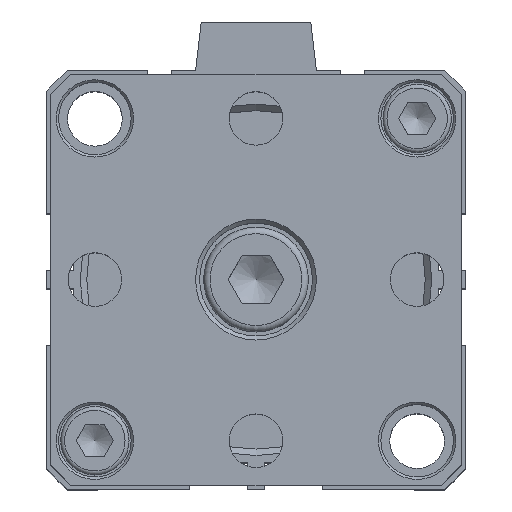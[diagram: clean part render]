
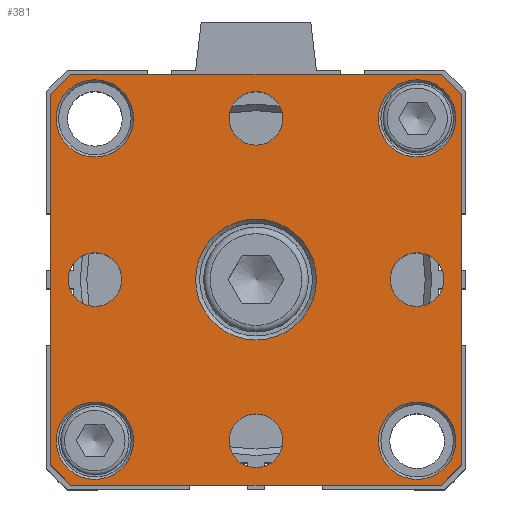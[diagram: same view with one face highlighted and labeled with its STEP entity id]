
A CAD part, top view. The second image highlights one B-rep face of the part: STEP entity #381.
In plain terms, the highlighted planar face has unit normal (0, 0, 1).
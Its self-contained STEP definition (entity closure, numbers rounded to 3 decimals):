
#207=CARTESIAN_POINT('',(25.398,21.555,66.1));
#208=VERTEX_POINT('',#207);
#209=CARTESIAN_POINT('',(20.598,21.555,66.1));
#210=DIRECTION('',(0.0,0.0,1.0));
#211=DIRECTION('',(-1.0,0.0,0.0));
#212=AXIS2_PLACEMENT_3D('',#209,#210,#211);
#213=CIRCLE('',#212,4.8);
#214=EDGE_CURVE('',#208,#208,#213,.T.);
#219=CARTESIAN_POINT('',(0.598,1.555,66.1));
#220=DIRECTION('',(0.0,0.0,1.0));
#221=DIRECTION('',(1.0,0.0,0.0));
#222=AXIS2_PLACEMENT_3D('',#219,#220,#221);
#223=PLANE('',#222);
#224=CARTESIAN_POINT('',(-24.902,24.555,66.1));
#225=VERTEX_POINT('',#224);
#226=CARTESIAN_POINT('',(-22.402,27.055,66.1));
#227=VERTEX_POINT('',#226);
#228=CARTESIAN_POINT('',(-24.902,24.555,66.1));
#229=DIRECTION('',(0.707,0.707,0.0));
#230=VECTOR('',#229,3.536);
#231=LINE('',#228,#230);
#232=EDGE_CURVE('',#225,#227,#231,.T.);
#233=ORIENTED_EDGE('',*,*,#232,.F.);
#234=CARTESIAN_POINT('',(-24.902,-21.445,66.1));
#235=VERTEX_POINT('',#234);
#236=CARTESIAN_POINT('',(-24.902,-21.445,66.1));
#237=DIRECTION('',(0.0,1.0,0.0));
#238=VECTOR('',#237,46.);
#239=LINE('',#236,#238);
#240=EDGE_CURVE('',#235,#225,#239,.T.);
#241=ORIENTED_EDGE('',*,*,#240,.F.);
#242=CARTESIAN_POINT('',(-22.402,-23.945,66.1));
#243=VERTEX_POINT('',#242);
#244=CARTESIAN_POINT('',(-22.402,-23.945,66.1));
#245=DIRECTION('',(-0.707,0.707,0.0));
#246=VECTOR('',#245,3.536);
#247=LINE('',#244,#246);
#248=EDGE_CURVE('',#243,#235,#247,.T.);
#249=ORIENTED_EDGE('',*,*,#248,.F.);
#250=CARTESIAN_POINT('',(23.598,-23.945,66.1));
#251=VERTEX_POINT('',#250);
#252=CARTESIAN_POINT('',(23.598,-23.945,66.1));
#253=DIRECTION('',(-1.0,0.0,0.0));
#254=VECTOR('',#253,46.);
#255=LINE('',#252,#254);
#256=EDGE_CURVE('',#251,#243,#255,.T.);
#257=ORIENTED_EDGE('',*,*,#256,.F.);
#258=CARTESIAN_POINT('',(26.098,-21.445,66.1));
#259=VERTEX_POINT('',#258);
#260=CARTESIAN_POINT('',(26.098,-21.445,66.1));
#261=DIRECTION('',(-0.707,-0.707,0.0));
#262=VECTOR('',#261,3.536);
#263=LINE('',#260,#262);
#264=EDGE_CURVE('',#259,#251,#263,.T.);
#265=ORIENTED_EDGE('',*,*,#264,.F.);
#266=CARTESIAN_POINT('',(26.098,24.555,66.1));
#267=VERTEX_POINT('',#266);
#268=CARTESIAN_POINT('',(26.098,24.555,66.1));
#269=DIRECTION('',(0.0,-1.0,0.0));
#270=VECTOR('',#269,46.);
#271=LINE('',#268,#270);
#272=EDGE_CURVE('',#267,#259,#271,.T.);
#273=ORIENTED_EDGE('',*,*,#272,.F.);
#274=CARTESIAN_POINT('',(23.598,27.055,66.1));
#275=VERTEX_POINT('',#274);
#276=CARTESIAN_POINT('',(23.598,27.055,66.1));
#277=DIRECTION('',(0.707,-0.707,0.0));
#278=VECTOR('',#277,3.536);
#279=LINE('',#276,#278);
#280=EDGE_CURVE('',#275,#267,#279,.T.);
#281=ORIENTED_EDGE('',*,*,#280,.F.);
#282=CARTESIAN_POINT('',(-22.402,27.055,66.1));
#283=DIRECTION('',(1.0,0.0,0.0));
#284=VECTOR('',#283,46.);
#285=LINE('',#282,#284);
#286=EDGE_CURVE('',#227,#275,#285,.T.);
#287=ORIENTED_EDGE('',*,*,#286,.F.);
#288=EDGE_LOOP('',(#233,#241,#249,#257,#265,#273,#281,#287));
#289=FACE_OUTER_BOUND('',#288,.T.);
#290=CARTESIAN_POINT('',(25.398,-18.445,66.1));
#291=VERTEX_POINT('',#290);
#292=CARTESIAN_POINT('',(20.598,-18.445,66.1));
#293=DIRECTION('',(0.0,0.0,1.0));
#294=DIRECTION('',(-1.0,0.0,0.0));
#295=AXIS2_PLACEMENT_3D('',#292,#293,#294);
#296=CIRCLE('',#295,4.8);
#297=EDGE_CURVE('',#291,#291,#296,.T.);
#298=ORIENTED_EDGE('',*,*,#297,.F.);
#299=EDGE_LOOP('',(#298));
#300=FACE_BOUND('',#299,.T.);
#301=CARTESIAN_POINT('',(-14.602,21.555,66.1));
#302=VERTEX_POINT('',#301);
#303=CARTESIAN_POINT('',(-19.402,21.555,66.1));
#304=DIRECTION('',(0.0,0.0,1.0));
#305=DIRECTION('',(-1.0,0.0,0.0));
#306=AXIS2_PLACEMENT_3D('',#303,#304,#305);
#307=CIRCLE('',#306,4.8);
#308=EDGE_CURVE('',#302,#302,#307,.T.);
#309=ORIENTED_EDGE('',*,*,#308,.F.);
#310=EDGE_LOOP('',(#309));
#311=FACE_BOUND('',#310,.T.);
#312=CARTESIAN_POINT('',(3.922,21.555,66.1));
#313=VERTEX_POINT('',#312);
#314=CARTESIAN_POINT('',(0.598,21.555,66.1));
#315=DIRECTION('',(0.0,0.0,-1.0));
#316=DIRECTION('',(1.0,0.0,0.0));
#317=AXIS2_PLACEMENT_3D('',#314,#315,#316);
#318=CIRCLE('',#317,3.324);
#319=EDGE_CURVE('',#313,#313,#318,.T.);
#320=ORIENTED_EDGE('',*,*,#319,.T.);
#321=EDGE_LOOP('',(#320));
#322=FACE_BOUND('',#321,.T.);
#323=CARTESIAN_POINT('',(-16.078,1.555,66.1));
#324=VERTEX_POINT('',#323);
#325=CARTESIAN_POINT('',(-19.402,1.555,66.1));
#326=DIRECTION('',(0.0,0.0,-1.0));
#327=DIRECTION('',(1.0,0.0,0.0));
#328=AXIS2_PLACEMENT_3D('',#325,#326,#327);
#329=CIRCLE('',#328,3.324);
#330=EDGE_CURVE('',#324,#324,#329,.T.);
#331=ORIENTED_EDGE('',*,*,#330,.T.);
#332=EDGE_LOOP('',(#331));
#333=FACE_BOUND('',#332,.T.);
#334=CARTESIAN_POINT('',(3.922,-18.445,66.1));
#335=VERTEX_POINT('',#334);
#336=CARTESIAN_POINT('',(0.598,-18.445,66.1));
#337=DIRECTION('',(0.0,0.0,-1.0));
#338=DIRECTION('',(1.0,0.0,0.0));
#339=AXIS2_PLACEMENT_3D('',#336,#337,#338);
#340=CIRCLE('',#339,3.324);
#341=EDGE_CURVE('',#335,#335,#340,.T.);
#342=ORIENTED_EDGE('',*,*,#341,.T.);
#343=EDGE_LOOP('',(#342));
#344=FACE_BOUND('',#343,.T.);
#345=CARTESIAN_POINT('',(23.922,1.555,66.1));
#346=VERTEX_POINT('',#345);
#347=CARTESIAN_POINT('',(20.598,1.555,66.1));
#348=DIRECTION('',(0.0,0.0,-1.0));
#349=DIRECTION('',(1.0,0.0,0.0));
#350=AXIS2_PLACEMENT_3D('',#347,#348,#349);
#351=CIRCLE('',#350,3.324);
#352=EDGE_CURVE('',#346,#346,#351,.T.);
#353=ORIENTED_EDGE('',*,*,#352,.T.);
#354=EDGE_LOOP('',(#353));
#355=FACE_BOUND('',#354,.T.);
#356=CARTESIAN_POINT('',(8.098,1.555,66.1));
#357=VERTEX_POINT('',#356);
#358=CARTESIAN_POINT('',(0.598,1.555,66.1));
#359=DIRECTION('',(0.0,0.0,1.0));
#360=DIRECTION('',(-1.0,0.0,0.0));
#361=AXIS2_PLACEMENT_3D('',#358,#359,#360);
#362=CIRCLE('',#361,7.5);
#363=EDGE_CURVE('',#357,#357,#362,.T.);
#364=ORIENTED_EDGE('',*,*,#363,.F.);
#365=EDGE_LOOP('',(#364));
#366=FACE_BOUND('',#365,.T.);
#367=CARTESIAN_POINT('',(-14.602,-18.445,66.1));
#368=VERTEX_POINT('',#367);
#369=CARTESIAN_POINT('',(-19.402,-18.445,66.1));
#370=DIRECTION('',(0.0,0.0,1.0));
#371=DIRECTION('',(-1.0,0.0,0.0));
#372=AXIS2_PLACEMENT_3D('',#369,#370,#371);
#373=CIRCLE('',#372,4.8);
#374=EDGE_CURVE('',#368,#368,#373,.T.);
#375=ORIENTED_EDGE('',*,*,#374,.F.);
#376=EDGE_LOOP('',(#375));
#377=FACE_BOUND('',#376,.T.);
#378=ORIENTED_EDGE('',*,*,#214,.F.);
#379=EDGE_LOOP('',(#378));
#380=FACE_BOUND('',#379,.T.);
#381=ADVANCED_FACE('',(#289,#300,#311,#322,#333,#344,#355,#366,#377,#380),#223,.T.);
